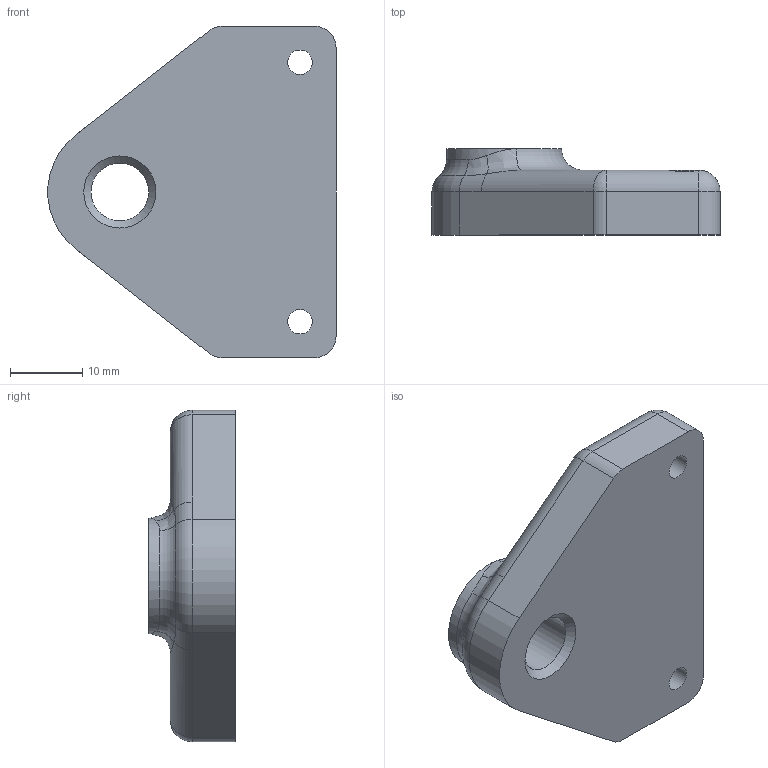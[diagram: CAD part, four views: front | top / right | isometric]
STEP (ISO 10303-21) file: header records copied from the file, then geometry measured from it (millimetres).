
FILE_DESCRIPTION(/* description */ (''),/* implementation_level */ '2;1');
FILE_NAME(/* name */ '',/* time_stamp */ '2025-06-11T17:32:34+09:00',/* author */ ('jhkim'),/* organization */ (''),/* preprocessor_version */ 'ST-DEVELOPER v20.1',/* originating_system */ 'Autodesk Inventor 2026',/* authorisation */ '');
FILE_SCHEMA (('AUTOMOTIVE_DESIGN { 1 0 10303 214 3 1 1 }'));
Length unit declared in the file: millimetre
Products named in the file (1): 링크 커버
Bounding box: 39.97 x 12 x 46 mm (x, y, z)
Volume: 12125 mm3; surface area: 4431 mm2
Topology: 1 solids, 1 shells, 41 faces, 96 edges, 57 vertices
Faces by surface type: cylinder 18, plane 10, sphere 4, bspline 4, torus 3, cone 2
Full cylindrical faces by diameter (mm): 3.4 x2, 6.5 x2, 8 x1
Entity records: 1345 total; most frequent: CARTESIAN_POINT 355, DIRECTION 206, ORIENTED_EDGE 192, EDGE_CURVE 96, AXIS2_PLACEMENT_3D 86, VERTEX_POINT 57, CIRCLE 48, EDGE_LOOP 47
